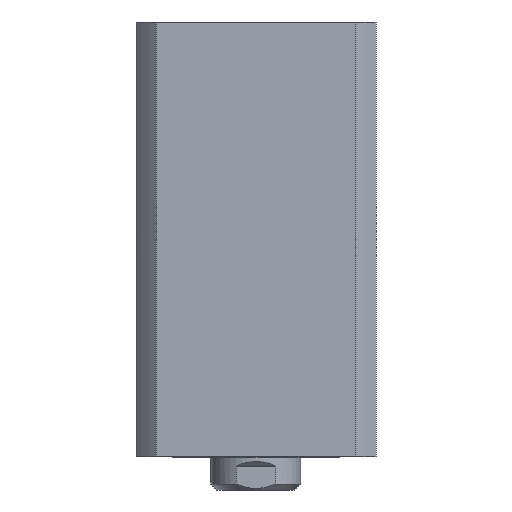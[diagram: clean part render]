
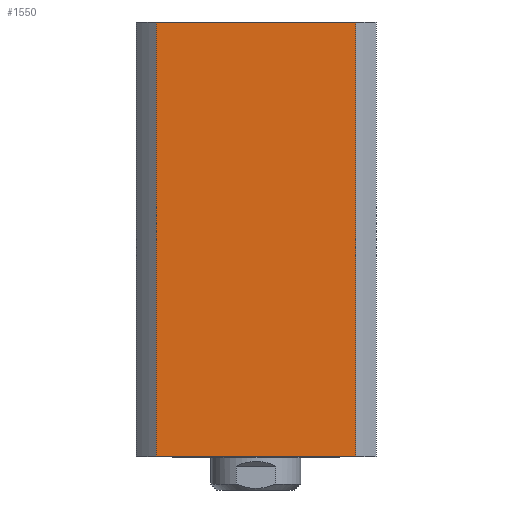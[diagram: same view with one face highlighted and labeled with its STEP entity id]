
A CAD part, left-side view. The second image highlights one B-rep face of the part: STEP entity #1550.
In plain terms, the highlighted planar face has unit normal (-1, 0, 0).
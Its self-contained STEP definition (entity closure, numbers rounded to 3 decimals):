
#125 = VECTOR ( 'NONE', #2424, 1000. ) ;
#1550 = ADVANCED_FACE ( 'NONE', ( #12986 ), #6743, .F. ) ;
#1596 = LINE ( 'NONE', #11588, #5154 ) ;
#1802 = LINE ( 'NONE', #13007, #10585 ) ;
#2015 = VERTEX_POINT ( 'NONE', #6255 ) ;
#2146 = EDGE_CURVE ( 'NONE', #12981, #2015, #1802, .T. ) ;
#2424 = DIRECTION ( 'NONE',  ( 0., -1., 0. ) ) ;
#2971 = AXIS2_PLACEMENT_3D ( 'NONE', #11034, #4732, #13244 ) ;
#4125 = DIRECTION ( 'NONE',  ( 0., 0., -1. ) ) ;
#4266 = CARTESIAN_POINT ( 'NONE',  ( -40., 33.226, 72.5 ) ) ;
#4544 = CARTESIAN_POINT ( 'NONE',  ( -40., 33.226, 72.5 ) ) ;
#4732 = DIRECTION ( 'NONE',  ( 1., 0., 0. ) ) ;
#5154 = VECTOR ( 'NONE', #10450, 1000. ) ;
#5850 = EDGE_CURVE ( 'NONE', #2015, #9670, #1596, .T. ) ;
#6255 = CARTESIAN_POINT ( 'NONE',  ( -40., 33.226, -72.5 ) ) ;
#6743 = PLANE ( 'NONE',  #2971 ) ;
#8396 = LINE ( 'NONE', #8528, #13823 ) ;
#8475 = EDGE_CURVE ( 'NONE', #12981, #9247, #10101, .T. ) ;
#8528 = CARTESIAN_POINT ( 'NONE',  ( -40., -33.226, 72.5 ) ) ;
#8767 = EDGE_CURVE ( 'NONE', #9247, #9670, #8396, .T. ) ;
#9247 = VERTEX_POINT ( 'NONE', #10411 ) ;
#9670 = VERTEX_POINT ( 'NONE', #13800 ) ;
#9992 = ORIENTED_EDGE ( 'NONE', *, *, #8767, .F. ) ;
#10101 = LINE ( 'NONE', #4544, #125 ) ;
#10263 = ORIENTED_EDGE ( 'NONE', *, *, #5850, .T. ) ;
#10411 = CARTESIAN_POINT ( 'NONE',  ( -40., -33.226, 72.5 ) ) ;
#10450 = DIRECTION ( 'NONE',  ( 0., -1., 0. ) ) ;
#10585 = VECTOR ( 'NONE', #10759, 1000. ) ;
#10759 = DIRECTION ( 'NONE',  ( 0., 0., -1. ) ) ;
#10988 = ORIENTED_EDGE ( 'NONE', *, *, #8475, .F. ) ;
#11034 = CARTESIAN_POINT ( 'NONE',  ( -40., 33.226, 72.5 ) ) ;
#11182 = EDGE_LOOP ( 'NONE', ( #10263, #9992, #10988, #12507 ) ) ;
#11588 = CARTESIAN_POINT ( 'NONE',  ( -40., 33.226, -72.5 ) ) ;
#12507 = ORIENTED_EDGE ( 'NONE', *, *, #2146, .T. ) ;
#12981 = VERTEX_POINT ( 'NONE', #4266 ) ;
#12986 = FACE_OUTER_BOUND ( 'NONE', #11182, .T. ) ;
#13007 = CARTESIAN_POINT ( 'NONE',  ( -40., 33.226, 72.5 ) ) ;
#13244 = DIRECTION ( 'NONE',  ( 0., 1., 0. ) ) ;
#13800 = CARTESIAN_POINT ( 'NONE',  ( -40., -33.226, -72.5 ) ) ;
#13823 = VECTOR ( 'NONE', #4125, 1000. ) ;
